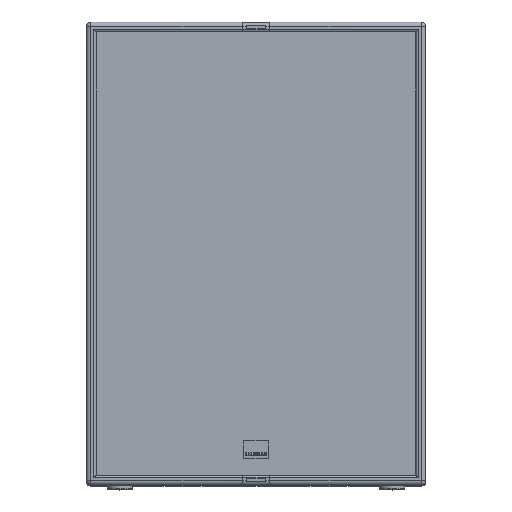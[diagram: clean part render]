
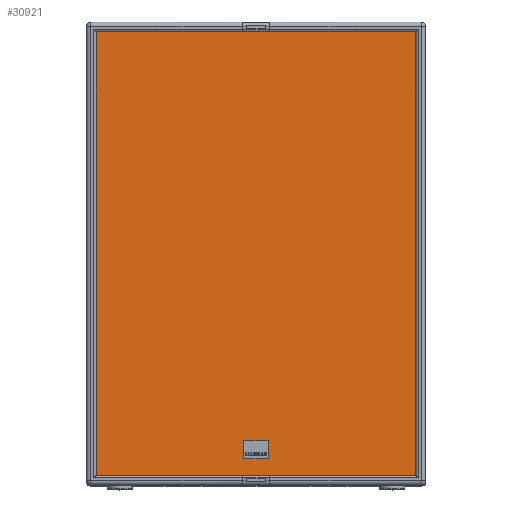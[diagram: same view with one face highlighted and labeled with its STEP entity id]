
A CAD part, top view. The second image highlights one B-rep face of the part: STEP entity #30921.
In plain terms, the highlighted planar face has unit normal (0, 0, 1) as drawn and (0, -1, 0) by its records, which use the part's own axes.
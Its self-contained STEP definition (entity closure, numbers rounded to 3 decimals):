
#26270 = DIRECTION ( 'NONE',  ( -1., 0., 0. ) ) ;
#26271 = VECTOR ( 'NONE', #26270, 1000. ) ;
#26272 = CARTESIAN_POINT ( 'NONE',  ( 256., 4., 0. ) ) ;
#26273 = LINE ( 'NONE', #26272, #26271 ) ;
#26274 = DIRECTION ( 'NONE',  ( 0., 0., -1. ) ) ;
#26275 = DIRECTION ( 'NONE',  ( 0., -1., 0. ) ) ;
#26276 = CARTESIAN_POINT ( 'NONE',  ( 497., 4., 0. ) ) ;
#26277 = AXIS2_PLACEMENT_3D ( 'NONE', #26276, #26275, #26274 ) ;
#26278 = PLANE ( 'NONE',  #26277 ) ;
#26279 = FACE_OUTER_BOUND ( 'NONE', #30922, .T. ) ;
#26311 = DIRECTION ( 'NONE',  ( 0., 0., 1. ) ) ;
#26312 = VECTOR ( 'NONE', #26311, 1000. ) ;
#26313 = CARTESIAN_POINT ( 'NONE',  ( 15., 4., 0. ) ) ;
#26314 = LINE ( 'NONE', #26313, #26312 ) ;
#26315 = CARTESIAN_POINT ( 'NONE',  ( 15., 4., 668. ) ) ;
#26316 = DIRECTION ( 'NONE',  ( -1., 0., 0. ) ) ;
#26317 = VECTOR ( 'NONE', #26316, 1000. ) ;
#26318 = CARTESIAN_POINT ( 'NONE',  ( 15., 4., 668. ) ) ;
#26319 = LINE ( 'NONE', #26318, #26317 ) ;
#26320 = CARTESIAN_POINT ( 'NONE',  ( 497., 4., 668. ) ) ;
#26321 = DIRECTION ( 'NONE',  ( 0., 0., -1. ) ) ;
#26322 = VECTOR ( 'NONE', #26321, 1000. ) ;
#26323 = CARTESIAN_POINT ( 'NONE',  ( 497., 4., 0. ) ) ;
#26324 = LINE ( 'NONE', #26323, #26322 ) ;
#26325 = CARTESIAN_POINT ( 'NONE',  ( 15., 4., 0. ) ) ;
#26326 = CARTESIAN_POINT ( 'NONE',  ( 497., 4., 0. ) ) ;
#30921 = ADVANCED_FACE ( 'NONE', ( #26279 ), #26278, .T. ) ;
#30922 = EDGE_LOOP ( 'NONE', ( #30923, #30927, #30930, #30933 ) ) ;
#30923 = ORIENTED_EDGE ( 'NONE', *, *, #30924, .F. ) ;
#30924 = EDGE_CURVE ( 'NONE', #30925, #30926, #26273, .T. ) ;
#30925 = VERTEX_POINT ( 'NONE', #26326 ) ;
#30926 = VERTEX_POINT ( 'NONE', #26325 ) ;
#30927 = ORIENTED_EDGE ( 'NONE', *, *, #30928, .F. ) ;
#30928 = EDGE_CURVE ( 'NONE', #30929, #30925, #26324, .T. ) ;
#30929 = VERTEX_POINT ( 'NONE', #26320 ) ;
#30930 = ORIENTED_EDGE ( 'NONE', *, *, #30931, .T. ) ;
#30931 = EDGE_CURVE ( 'NONE', #30929, #30932, #26319, .T. ) ;
#30932 = VERTEX_POINT ( 'NONE', #26315 ) ;
#30933 = ORIENTED_EDGE ( 'NONE', *, *, #30934, .F. ) ;
#30934 = EDGE_CURVE ( 'NONE', #30926, #30932, #26314, .T. ) ;
